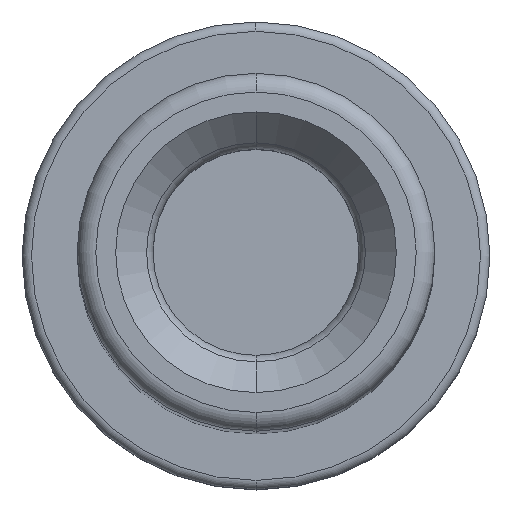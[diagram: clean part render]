
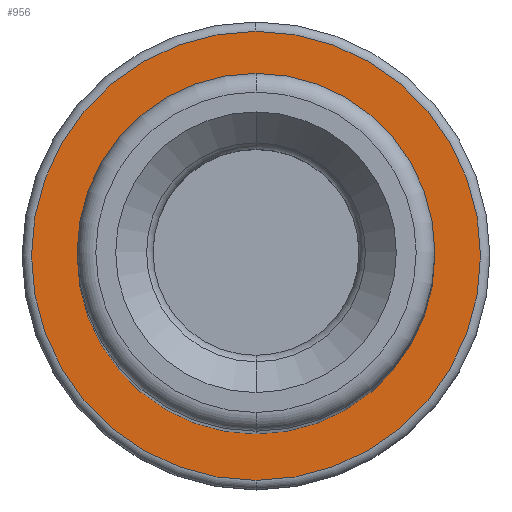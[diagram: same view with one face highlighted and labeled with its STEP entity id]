
A CAD part, top view. The second image highlights one B-rep face of the part: STEP entity #956.
In plain terms, the highlighted planar face has unit normal (0, 0, 1).
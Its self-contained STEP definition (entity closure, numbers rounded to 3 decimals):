
#295=CARTESIAN_POINT('',(0.,0.,-11.252));
#296=DIRECTION('',(0.,0.,-1.));
#297=DIRECTION('',(0.,-1.,0.));
#298=AXIS2_PLACEMENT_3D('',#295,#296,#297);
#300=CARTESIAN_POINT('',(0.,0.,-11.252));
#301=DIRECTION('',(0.,0.,1.));
#302=DIRECTION('',(0.,-1.,0.));
#303=AXIS2_PLACEMENT_3D('',#300,#301,#302);
#305=CARTESIAN_POINT('',(0.,0.,-11.252));
#306=DIRECTION('',(0.,0.,-1.));
#307=DIRECTION('',(0.,1.,0.));
#308=AXIS2_PLACEMENT_3D('',#305,#306,#307);
#310=CARTESIAN_POINT('',(0.,0.,-11.252));
#311=DIRECTION('',(0.,0.,-1.));
#312=DIRECTION('',(0.,-1.,0.));
#313=AXIS2_PLACEMENT_3D('',#310,#311,#312);
#575=CARTESIAN_POINT('',(0.,-0.936,-11.252));
#576=CARTESIAN_POINT('',(0.,0.936,-11.252));
#577=VERTEX_POINT('',#575);
#578=VERTEX_POINT('',#576);
#609=CARTESIAN_POINT('',(0.,1.219,-11.252));
#610=CARTESIAN_POINT('',(0.,-1.219,-11.252));
#611=VERTEX_POINT('',#609);
#612=VERTEX_POINT('',#610);
#941=CARTESIAN_POINT('',(0.,0.,-11.252));
#942=DIRECTION('',(0.,0.,1.));
#943=DIRECTION('',(0.,1.,0.));
#944=AXIS2_PLACEMENT_3D('',#941,#942,#943);
#945=PLANE('',#944);
#947=ORIENTED_EDGE('',*,*,#946,.T.);
#949=ORIENTED_EDGE('',*,*,#948,.T.);
#950=EDGE_LOOP('',(#947,#949));
#951=FACE_OUTER_BOUND('',#950,.F.);
#952=ORIENTED_EDGE('',*,*,#858,.F.);
#953=ORIENTED_EDGE('',*,*,#873,.T.);
#954=EDGE_LOOP('',(#952,#953));
#955=FACE_BOUND('',#954,.F.);
#956=ADVANCED_FACE('',(#951,#955),#945,.T.);
#299=CIRCLE('',#298,0.936);
#304=CIRCLE('',#303,0.936);
#309=CIRCLE('',#308,1.219);
#314=CIRCLE('',#313,1.219);
#858=EDGE_CURVE('',#577,#578,#299,.T.);
#873=EDGE_CURVE('',#577,#578,#304,.T.);
#946=EDGE_CURVE('',#611,#612,#309,.T.);
#948=EDGE_CURVE('',#612,#611,#314,.T.);
